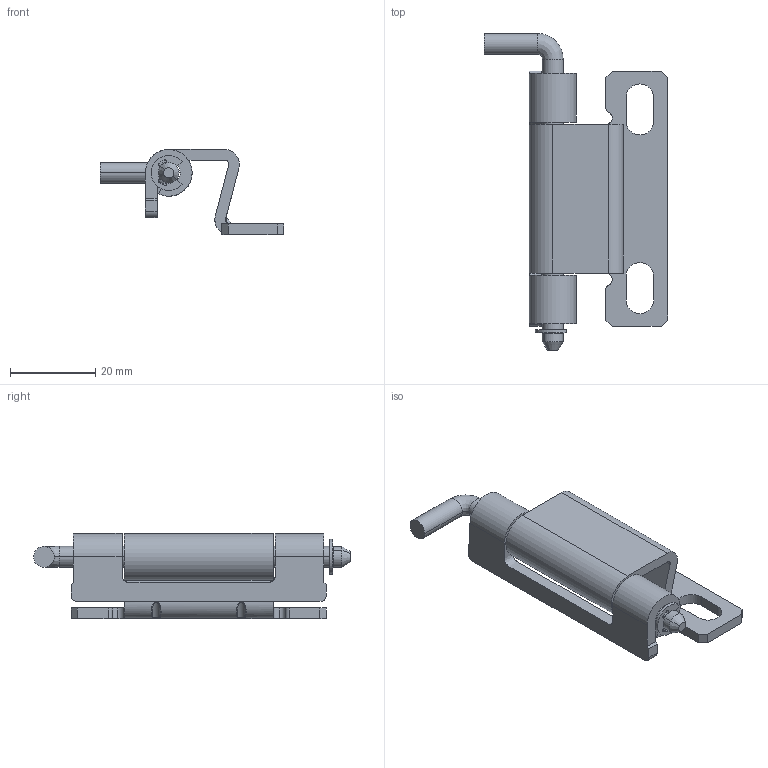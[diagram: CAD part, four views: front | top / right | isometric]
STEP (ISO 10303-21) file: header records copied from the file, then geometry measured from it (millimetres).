
FILE_DESCRIPTION(/* description */ (''),/* implementation_level */ '2;1');
FILE_NAME(/* name */ 'JL250-3',/* time_stamp */ '2025-03-20T13:31:19+08:00',/* author */ (''),/* organization */ (''),/* preprocessor_version */ 'ST-DEVELOPER v19.2',/* originating_system */ 'Rhino 8.5',/* authorisation */ '');
FILE_SCHEMA (('CONFIG_CONTROL_DESIGN'));
Length unit declared in the file: millimetre
Products named in the file (1): Document
Bounding box: 43.05 x 74.5 x 20 mm (x, y, z)
Volume: 10599.3 mm3; surface area: 9902.1 mm2
Topology: 4 solids, 4 shells, 114 faces, 286 edges, 184 vertices
Faces by surface type: cylinder 52, plane 45, bspline 17
Entity records: 4531 total; most frequent: CARTESIAN_POINT 2137, ORIENTED_EDGE 572, DIRECTION 297, EDGE_CURVE 286, AXIS2_PLACEMENT_3D 197, VERTEX_POINT 184, EDGE_LOOP 126, ADVANCED_FACE 114
